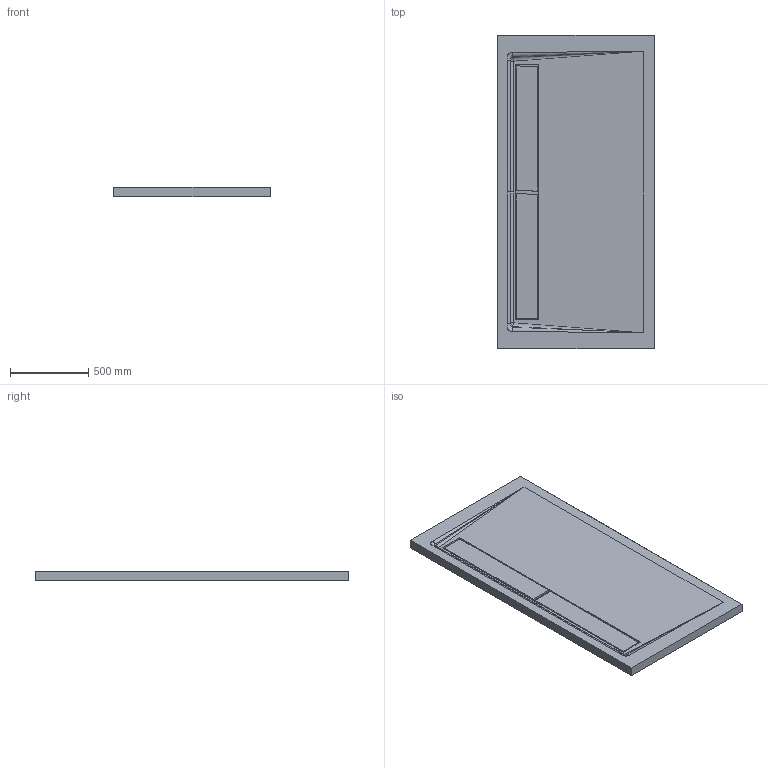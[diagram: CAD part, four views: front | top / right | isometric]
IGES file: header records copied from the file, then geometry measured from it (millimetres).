
Global section: file name: D:\Desktop\GIOVANNI\SCHEDE PRODOTTO\PIATTI DOCCIA\UNIQUE\3D\PIATTO DOCCIA_UNIQUE.igs; native system: Rhinoceros ( Jan 17 2018 ); preprocessor: Trout Lake IGES 012 Jan 17 2018; date: 230524.121643; units: millimetre
Bounding box: 1000 x 2001.14 x 60 mm (x, y, z)
Surface area: 4955749 mm2 (no closed solid volume)
Topology: 0 solids, 0 shells, 43 faces, 206 edges, 200 vertices
Faces by surface type: bspline 43
